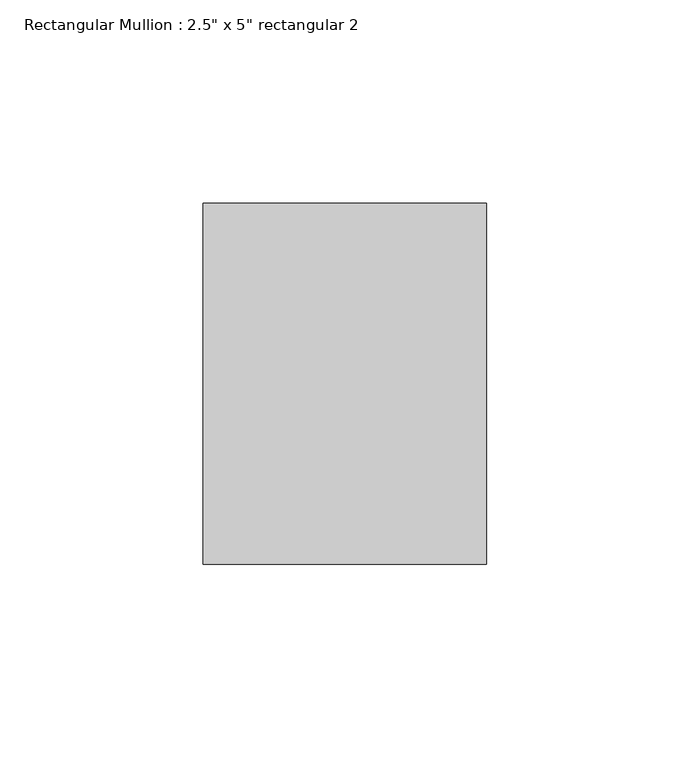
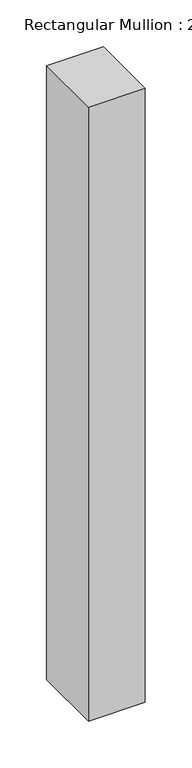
"""IFC4 building model written with IfcOpenShell, lengths in millimetres: member geometry."""

from ifc_helpers import new_model, si_unit, frame, origin, place, context, project, spatial, polyline, outline, extrude, source, transform, mapped, element, save


def member_7c31a16b(model_context):
    return source(origin(), model_context, "Body", "SweptSolid", [
        extrude(outline(polyline([(38.1, 44.45), (38.1, -44.45), (-31.75, -44.45), (-31.75, 44.45), (38.1, 44.45)])), frame((0.0, 0.0, -798.2080049), z_axis=(0.0, 0.0, 1.0), x_axis=(1.0, 0.0, 0.0)), (0.0, 0.0, 1.0), 798.2080049),
    ])


if __name__ == "__main__":
    model = new_model("IFC4")
    model_context = context("Model", 3, world=origin())
    ifc_project = project(units=[si_unit("LENGTHUNIT", "METRE", prefix="MILLI")], contexts=[model_context])
    site = spatial("IfcSite", under=ifc_project)
    building = spatial("IfcBuilding", under=site)
    placement = place(None, origin())
    member_shape = member_7c31a16b(model_context)
    element("IfcMember", 1, ObjectType="Rectangular Mullion : 2.5\" x 5\" rectangular 2", at=placement, inside=building, context=model_context, shape_type="MappedRepresentation", body=[
        mapped(member_shape, transform((0.0, 0.0, 0.0), x_axis=(1.0, 0.0, 0.0), y_axis=(0.0, 1.0, 0.0), z_axis=(0.0, 0.0, 1.0))),
    ])
    save(model, "model.ifc")
